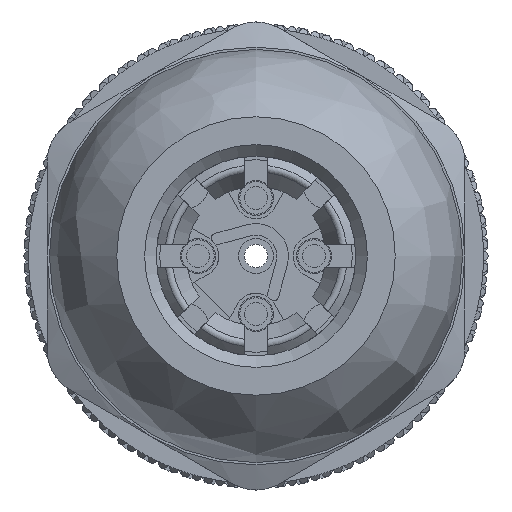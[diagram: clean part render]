
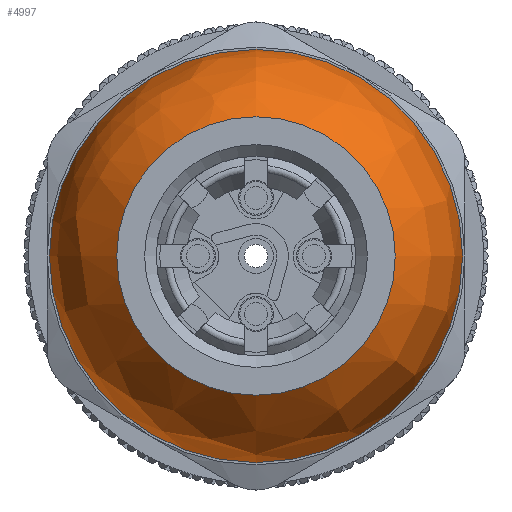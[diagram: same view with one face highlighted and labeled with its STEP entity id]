
A CAD part, front view. The second image highlights one B-rep face of the part: STEP entity #4997.
In plain terms, the highlighted free-form (B-spline) face has degree [3, 3] with [4, 7] control points.
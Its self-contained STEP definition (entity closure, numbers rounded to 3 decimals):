
#532=(
BOUNDED_SURFACE()
B_SPLINE_SURFACE(3,3,((#31705,#31706,#31707,#31708,#31709,#31710,#31711),
(#31712,#31713,#31714,#31715,#31716,#31717,#31718),(#31719,#31720,#31721,
#31722,#31723,#31724,#31725),(#31726,#31727,#31728,#31729,#31730,#31731,
#31732)),.UNSPECIFIED.,.F.,.T.,.F.)
B_SPLINE_SURFACE_WITH_KNOTS((4,4),(1,3,3,3,1),(0.,1.),(-0.5,0.,0.5,1.,1.5),
 .UNSPECIFIED.)
GEOMETRIC_REPRESENTATION_ITEM()
RATIONAL_B_SPLINE_SURFACE(((1.,0.333,0.333,1.,0.333,
0.333,1.),(0.923,0.308,0.308,
0.923,0.308,0.308,0.923),
(0.923,0.308,0.308,0.923,
0.308,0.308,0.923),(1.,0.333,
0.333,1.,0.333,0.333,1.)))
REPRESENTATION_ITEM('')
SURFACE()
);
#4997=ADVANCED_FACE('',(#6617,#6618),#532,.T.);
#6617=FACE_BOUND('',#6971,.T.);
#6618=FACE_BOUND('',#6972,.T.);
#6971=EDGE_LOOP('',(#8475));
#6972=EDGE_LOOP('',(#8476));
#8475=ORIENTED_EDGE('',*,*,#15938,.F.);
#8476=ORIENTED_EDGE('',*,*,#15939,.T.);
#14181=VERTEX_POINT('',#31701);
#14182=VERTEX_POINT('',#31704);
#15938=EDGE_CURVE('',#14181,#14181,#18765,.T.);
#15939=EDGE_CURVE('',#14182,#14182,#18766,.T.);
#18765=CIRCLE('',#19932,8.9);
#18766=CIRCLE('',#19934,6.);
#19932=AXIS2_PLACEMENT_3D('',#31700,#22368,#22369);
#19934=AXIS2_PLACEMENT_3D('',#31703,#22372,#22373);
#22368=DIRECTION('',(0.,1.,0.));
#22369=DIRECTION('',(0.,0.,1.));
#22372=DIRECTION('',(0.,1.,0.));
#22373=DIRECTION('',(0.,0.,1.));
#31700=CARTESIAN_POINT('',(0.,-49.,0.));
#31701=CARTESIAN_POINT('',(0.,-49.,8.9));
#31703=CARTESIAN_POINT('',(0.,-54.5,0.));
#31704=CARTESIAN_POINT('',(0.,-54.5,6.));
#31705=CARTESIAN_POINT('',(-8.9,-49.,0.));
#31706=CARTESIAN_POINT('',(-8.9,-49.,17.8));
#31707=CARTESIAN_POINT('',(8.9,-49.,17.8));
#31708=CARTESIAN_POINT('',(8.9,-49.,0.));
#31709=CARTESIAN_POINT('',(8.9,-49.,-17.8));
#31710=CARTESIAN_POINT('',(-8.9,-49.,-17.8));
#31711=CARTESIAN_POINT('',(-8.9,-49.,0.));
#31712=CARTESIAN_POINT('',(-8.9,-51.245,0.));
#31713=CARTESIAN_POINT('',(-8.9,-51.245,17.8));
#31714=CARTESIAN_POINT('',(8.9,-51.245,17.8));
#31715=CARTESIAN_POINT('',(8.9,-51.245,0.));
#31716=CARTESIAN_POINT('',(8.9,-51.245,-17.8));
#31717=CARTESIAN_POINT('',(-8.9,-51.245,-17.8));
#31718=CARTESIAN_POINT('',(-8.9,-51.245,0.));
#31719=CARTESIAN_POINT('',(-7.853,-53.232,0.));
#31720=CARTESIAN_POINT('',(-7.853,-53.232,15.706));
#31721=CARTESIAN_POINT('',(7.853,-53.232,15.706));
#31722=CARTESIAN_POINT('',(7.853,-53.232,0.));
#31723=CARTESIAN_POINT('',(7.853,-53.232,-15.705));
#31724=CARTESIAN_POINT('',(-7.853,-53.232,-15.705));
#31725=CARTESIAN_POINT('',(-7.853,-53.232,0.));
#31726=CARTESIAN_POINT('',(-6.,-54.5,0.));
#31727=CARTESIAN_POINT('',(-6.,-54.5,12.));
#31728=CARTESIAN_POINT('',(6.,-54.5,12.));
#31729=CARTESIAN_POINT('',(6.,-54.5,0.));
#31730=CARTESIAN_POINT('',(6.,-54.5,-12.));
#31731=CARTESIAN_POINT('',(-6.,-54.5,-12.));
#31732=CARTESIAN_POINT('',(-6.,-54.5,0.));
